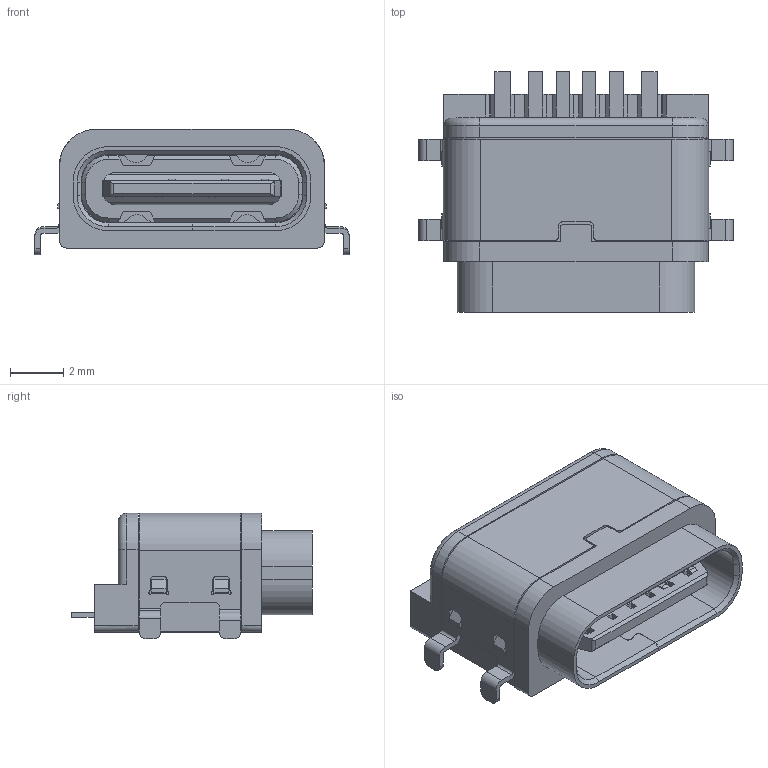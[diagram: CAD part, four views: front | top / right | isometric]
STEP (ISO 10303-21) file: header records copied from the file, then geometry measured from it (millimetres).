
FILE_DESCRIPTION(('CoCreate Modeling STEP Export'),'2;1');
FILE_NAME('AA0B010-078单排6P四脚插板防水型.stp','2018-12-09T13:35:39',(''),(''),'CoCreate Modeling STEP processor for AP214 (Solid Model)','CoCreate Modeling 16.00 13-May-2008 (C) Parametric Technology GmbH','');
FILE_SCHEMA(('AUTOMOTIVE_DESIGN { 1 0 10303 214 1 1 1 1 }'));
Length unit declared in the file: millimetre
Products named in the file (2): 6P沉板17.05.06_asm-外模.1.1
Assembly tree (1 placements, depth 2):
  6P沉板17.05.06_asm-外模.1.1
    6P沉板17.05.06_asm-外模.1.1
Bounding box: 11.8 x 9.05 x 4.71 mm (x, y, z)
Volume: 211.2 mm3; surface area: 654.8 mm2
Topology: 1 solids, 33 shells, 1005 faces, 2716 edges, 1788 vertices
Faces by surface type: plane 725, cylinder 266, cone 12, torus 2
Entity records: 30516 total; most frequent: CARTESIAN_POINT 5576, ORIENTED_EDGE 5436, DIRECTION 4840, EDGE_CURVE 2716, VECTOR 2078, LINE 2078, VERTEX_POINT 1788, AXIS2_PLACEMENT_3D 1381
